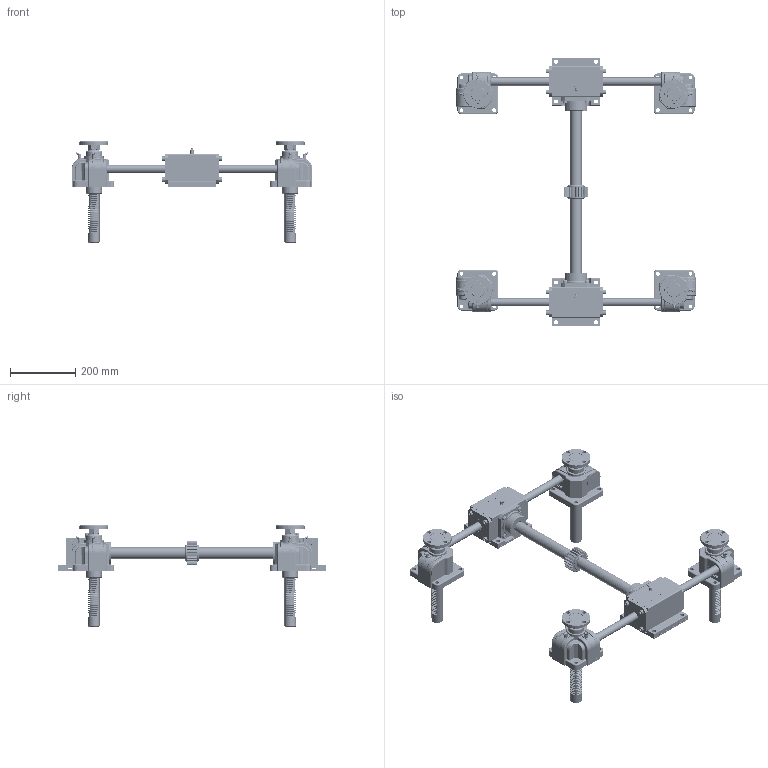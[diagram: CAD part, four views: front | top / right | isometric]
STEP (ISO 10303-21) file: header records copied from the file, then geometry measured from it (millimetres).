
FILE_DESCRIPTION(('STEP AP203'),'1');
FILE_NAME('SPM1500F-600x600-300-150ST.stp','2016-08-06T00:29:01',(' '),(' '),'Spatial InterOp 3D',' ',' ');
FILE_SCHEMA(('CONFIG_CONTROL_DESIGN'));
Length unit declared in the file: millimetre
Products named in the file (123): SPM1500F-600x600-300-150ST; Rack Gear(SP-1500F); Flange.1-Part; Flange.1; Joint.1; Nut.1; Flange.2-Part; Flange.2; Joint.2; Nut.2; Flange.3-Part; Flange.3; Joint.3; Nut.3; Flange.4-Part; Flange.4; Joint.4; Nut.4; Body.1-Part; Hole Cover(NSPM-1500F); SnapRing-55Pie; b6205zz; Nipple; Gear Box.1(NSP-1500); RJ05-4SCJ-610X600-100ST_CAP; LABEL-B.1; ___; 파트18; __ ; Body.2-Part; Gear Box.2(NSP-1500); Body.3-Part; Gear Box.3(NSP-1500); Body.4-Part; Gear Box.4(NSP-1500); Bevel-Part(BG05); Bolt-(BG05); liner-5t; BevelBoxCover1(BG05); BevelBoxCover2(BG05)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
Assembly tree (126 placements, depth 6):
  SPM1500F-600x600-300-150ST
    Rack Gear(SP-1500F)  x4
    Flange.1-Part
      Flange.1
      Joint.1
      Nut.1
    Flange.2-Part
      Flange.2
      Joint.2
      Nut.2
    Flange.3-Part
      Flange.3
      Joint.3
      Nut.3
    Flange.4-Part
      Flange.4
      Joint.4
      Nut.4
    Body.1-Part
      Hole Cover(NSPM-1500F)
      SnapRing-55Pie
      b6205zz
      Nipple
      Nipple
      Gear Box.1(NSP-1500)
      __ 
        ___
          RJ05-4SCJ-610X600-100ST_CAP
            LABEL-B.1
          파트18
    Body.2-Part
      Hole Cover(NSPM-1500F)
      Nipple
      Nipple
      SnapRing-55Pie
      b6205zz
      Gear Box.2(NSP-1500)
      __ 
        ___
          RJ05-4SCJ-610X600-100ST_CAP
            LABEL-B.1
          파트18
    Body.3-Part
      Hole Cover(NSPM-1500F)
      Nipple
      Nipple
      SnapRing-55Pie
      b6205zz
      Gear Box.3(NSP-1500)
      __ 
        ___
          RJ05-4SCJ-610X600-100ST_CAP
            LABEL-B.1
          파트18
    Body.4-Part
      Hole Cover(NSPM-1500F)
      Nipple
      Nipple
      SnapRing-55Pie
      b6205zz
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Bounding box: 735.36 x 821.5 x 310 mm (x, y, z)
Volume: 6115369.6 mm3; surface area: 1597569.5 mm2
Topology: 132 solids, 192 shells, 15113 faces, 42299 edges, 27658 vertices
Faces by surface type: plane 11825, cylinder 1930, torus 416, extrusion 234, bspline 224, revolution 210, cone 186, sphere 88
Full cylindrical faces by diameter (mm): 3.087 x8, 4.8 x10, 6 x2, 8 x56, 9.5 x24, 9.886 x10, 10 x8, 12 x48, 14 x24, 25 x24, 26 x4, 27 x4, 28 x8, 30 x2, 32.5 x8, 35 x5, 36 x4, 37 x6, 38 x4, 39 x12, 39.4 x4, 40 x2, 41 x8, 42 x2, 44 x4, 45 x6, 46.1 x8, 48 x4, 50 x12, 52 x30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
Entity records: 472736 total; most frequent: CARTESIAN_POINT 112187, ORIENTED_EDGE 76190, DIRECTION 67098, EDGE_CURVE 38227, VECTOR 32952, LINE 32718, VERTEX_POINT 25427, AXIS2_PLACEMENT_3D 16968
